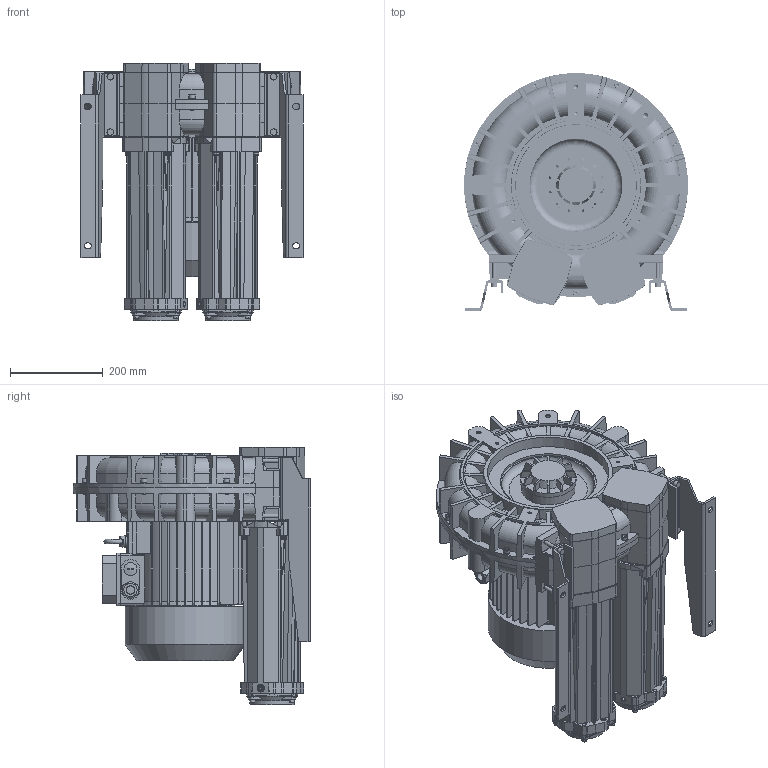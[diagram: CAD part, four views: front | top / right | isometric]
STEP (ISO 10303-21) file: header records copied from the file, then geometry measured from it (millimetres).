
FILE_DESCRIPTION (( 'STEP AP203' ), '1' );
FILE_NAME ('STP-L_e_08P_MS_MOR_IE3WR_132_7.5kW-3_25-00.step', '2025-02-28T14:49:27', ( '' ), ( '' ), 'SwSTEP 2.0', 'SolidWorks 2024', '' );
FILE_SCHEMA (( 'CONFIG_CONTROL_DESIGN' ));
Products named in the file (1): STP-L_e_08P_MS_MOR_IE3WR_132_7.5kW-3_25-00
Bounding box: 481.94 x 511 x 555 mm (x, y, z)
Volume: 44111474.2 mm3; surface area: 2772185.8 mm2
Topology: 78 solids, 86 shells, 5475 faces, 14053 edges, 8776 vertices
Faces by surface type: plane 1876, cylinder 1804, bspline 846, torus 479, cone 429, sphere 41
Full cylindrical faces by diameter (mm): 5 x16, 6 x24, 6.4 x8, 6.8 x9, 7.5 x4, 8 x23, 8.4 x19, 8.5 x6, 8.566 x2, 8.8 x4, 9 x8, 9.5 x4, 9.98 x2, 10 x19, 12 x2, 12.02 x2, 13 x26, 14 x14, 16 x4, 16.5 x2, 18 x1, 19 x1, 20 x2, 21.4 x1, 24 x4, 25 x3, 28 x1, 85.3 x2, 108 x2, 115 x2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
Entity records: 238639 total; most frequent: CARTESIAN_POINT 116820, ORIENTED_EDGE 26620, DIRECTION 23434, EDGE_CURVE 13310, AXIS2_PLACEMENT_3D 9037, VERTEX_POINT 8556, EDGE_LOOP 6164, FACE_OUTER_BOUND 5786
